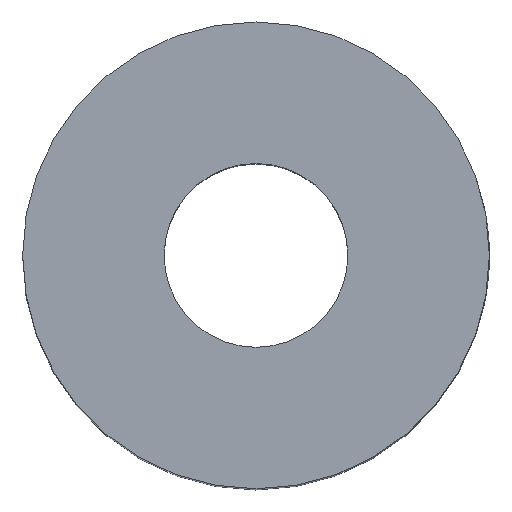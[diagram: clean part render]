
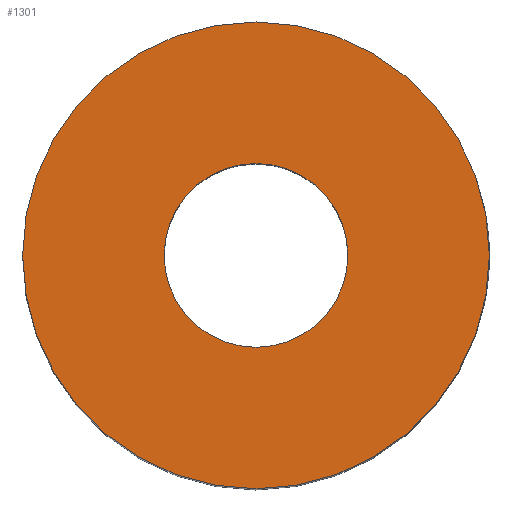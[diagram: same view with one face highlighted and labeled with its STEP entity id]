
A CAD part, top view. The second image highlights one B-rep face of the part: STEP entity #1301.
In plain terms, the highlighted planar face has unit normal (0, 0, 1).
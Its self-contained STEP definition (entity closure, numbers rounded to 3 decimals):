
#32 = CYLINDRICAL_SURFACE('',#33,8.);
#33 = AXIS2_PLACEMENT_3D('',#34,#35,#36);
#34 = CARTESIAN_POINT('',(0.,0.,0.));
#35 = DIRECTION('',(-0.,-0.,-1.));
#36 = DIRECTION('',(1.,0.,0.));
#297 = VERTEX_POINT('',#298);
#298 = CARTESIAN_POINT('',(8.,0.,24.));
#319 = EDGE_CURVE('',#297,#297,#320,.T.);
#320 = SURFACE_CURVE('',#321,(#326,#333),.PCURVE_S1.);
#321 = CIRCLE('',#322,8.);
#322 = AXIS2_PLACEMENT_3D('',#323,#324,#325);
#323 = CARTESIAN_POINT('',(0.,0.,24.));
#324 = DIRECTION('',(0.,0.,1.));
#325 = DIRECTION('',(1.,0.,0.));
#326 = PCURVE('',#32,#327);
#327 = DEFINITIONAL_REPRESENTATION('',(#328),#332);
#328 = LINE('',#329,#330);
#329 = CARTESIAN_POINT('',(-0.,-24.));
#330 = VECTOR('',#331,1.);
#331 = DIRECTION('',(-1.,0.));
#332 = ( GEOMETRIC_REPRESENTATION_CONTEXT(2) 
PARAMETRIC_REPRESENTATION_CONTEXT() REPRESENTATION_CONTEXT('2D SPACE',''
  ) );
#333 = PCURVE('',#334,#339);
#334 = PLANE('',#335);
#335 = AXIS2_PLACEMENT_3D('',#336,#337,#338);
#336 = CARTESIAN_POINT('',(0.,0.,
    24.));
#337 = DIRECTION('',(0.,0.,1.));
#338 = DIRECTION('',(1.,0.,-0.));
#339 = DEFINITIONAL_REPRESENTATION('',(#340),#344);
#340 = CIRCLE('',#341,8.);
#341 = AXIS2_PLACEMENT_2D('',#342,#343);
#342 = CARTESIAN_POINT('',(0.,0.));
#343 = DIRECTION('',(1.,0.));
#344 = ( GEOMETRIC_REPRESENTATION_CONTEXT(2) 
PARAMETRIC_REPRESENTATION_CONTEXT() REPRESENTATION_CONTEXT('2D SPACE',''
  ) );
#1029 = CYLINDRICAL_SURFACE('',#1030,3.15);
#1030 = AXIS2_PLACEMENT_3D('',#1031,#1032,#1033);
#1031 = CARTESIAN_POINT('',(0.,0.,12.));
#1032 = DIRECTION('',(-0.,-0.,-1.));
#1033 = DIRECTION('',(1.,0.,0.));
#1301 = ADVANCED_FACE('',(#1302,#1305),#334,.T.);
#1302 = FACE_BOUND('',#1303,.T.);
#1303 = EDGE_LOOP('',(#1304));
#1304 = ORIENTED_EDGE('',*,*,#319,.T.);
#1305 = FACE_BOUND('',#1306,.T.);
#1306 = EDGE_LOOP('',(#1307));
#1307 = ORIENTED_EDGE('',*,*,#1308,.T.);
#1308 = EDGE_CURVE('',#1309,#1309,#1311,.T.);
#1309 = VERTEX_POINT('',#1310);
#1310 = CARTESIAN_POINT('',(3.15,0.,24.));
#1311 = SURFACE_CURVE('',#1312,(#1317,#1328),.PCURVE_S1.);
#1312 = CIRCLE('',#1313,3.15);
#1313 = AXIS2_PLACEMENT_3D('',#1314,#1315,#1316);
#1314 = CARTESIAN_POINT('',(0.,0.,24.));
#1315 = DIRECTION('',(0.,0.,-1.));
#1316 = DIRECTION('',(1.,0.,0.));
#1317 = PCURVE('',#334,#1318);
#1318 = DEFINITIONAL_REPRESENTATION('',(#1319),#1327);
#1319 = ( BOUNDED_CURVE() B_SPLINE_CURVE(2,(#1320,#1321,#1322,#1323,
#1324,#1325,#1326),.UNSPECIFIED.,.T.,.F.) B_SPLINE_CURVE_WITH_KNOTS((1,2
    ,2,2,2,1),(-2.094,0.,2.094,4.189,
6.283,8.378),.UNSPECIFIED.) CURVE() 
GEOMETRIC_REPRESENTATION_ITEM() RATIONAL_B_SPLINE_CURVE((1.,0.5,1.,0.5,
1.,0.5,1.)) REPRESENTATION_ITEM('') );
#1320 = CARTESIAN_POINT('',(3.15,0.));
#1321 = CARTESIAN_POINT('',(3.15,-5.456));
#1322 = CARTESIAN_POINT('',(-1.575,-2.728));
#1323 = CARTESIAN_POINT('',(-6.3,0.));
#1324 = CARTESIAN_POINT('',(-1.575,2.728));
#1325 = CARTESIAN_POINT('',(3.15,5.456));
#1326 = CARTESIAN_POINT('',(3.15,0.));
#1327 = ( GEOMETRIC_REPRESENTATION_CONTEXT(2) 
PARAMETRIC_REPRESENTATION_CONTEXT() REPRESENTATION_CONTEXT('2D SPACE',''
  ) );
#1328 = PCURVE('',#1029,#1329);
#1329 = DEFINITIONAL_REPRESENTATION('',(#1330),#1334);
#1330 = LINE('',#1331,#1332);
#1331 = CARTESIAN_POINT('',(-6.283,-12.));
#1332 = VECTOR('',#1333,1.);
#1333 = DIRECTION('',(1.,-0.));
#1334 = ( GEOMETRIC_REPRESENTATION_CONTEXT(2) 
PARAMETRIC_REPRESENTATION_CONTEXT() REPRESENTATION_CONTEXT('2D SPACE',''
  ) );
